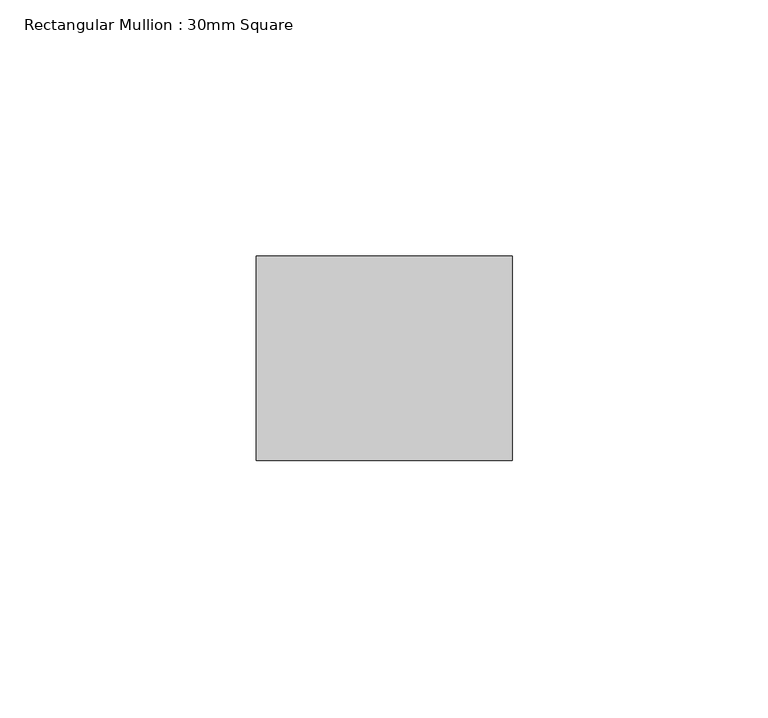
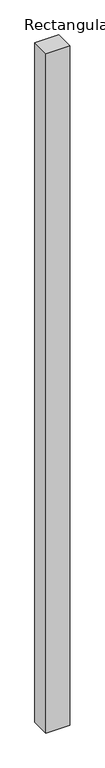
"""IFC4 building model written with IfcOpenShell, lengths in millimetres: member geometry, Rectangular Mullion : 30mm Square."""

from ifc_helpers import new_model, si_unit, frame, origin, place, context, project, spatial, polyline, outline, extrude, source, transform, mapped, element, save


def rectangular_mullion_30mm_square_db94e10f(model_context):
    return source(origin(), model_context, "Body", "SweptSolid", [
        extrude(outline(polyline([(25.0, 20.0), (25.0, -20.0), (-25.0, -20.0), (-25.0, 20.0), (25.0, 20.0)])), frame((0.0, 0.0, -1510.0), z_axis=(0.0, 0.0, 1.0), x_axis=(1.0, 0.0, 0.0)), (0.0, 0.0, 1.0), 1510.0),
    ])


if __name__ == "__main__":
    model = new_model("IFC4")
    model_context = context("Model", 3, world=origin())
    ifc_project = project(units=[si_unit("LENGTHUNIT", "METRE", prefix="MILLI")], contexts=[model_context])
    site = spatial("IfcSite", under=ifc_project)
    building = spatial("IfcBuilding", under=site)
    placement = place(None, origin())
    rectangular_mullion_30mm_square_shape = rectangular_mullion_30mm_square_db94e10f(model_context)
    element("IfcMember", 1, ObjectType="Rectangular Mullion : 30mm Square", at=placement, inside=building, context=model_context, shape_type="MappedRepresentation", body=[
        mapped(rectangular_mullion_30mm_square_shape, transform((0.0, 0.0, 0.0), x_axis=(1.0, 0.0, 0.0), y_axis=(0.0, 1.0, 0.0), z_axis=(0.0, 0.0, 1.0))),
    ])
    save(model, "model.ifc")
